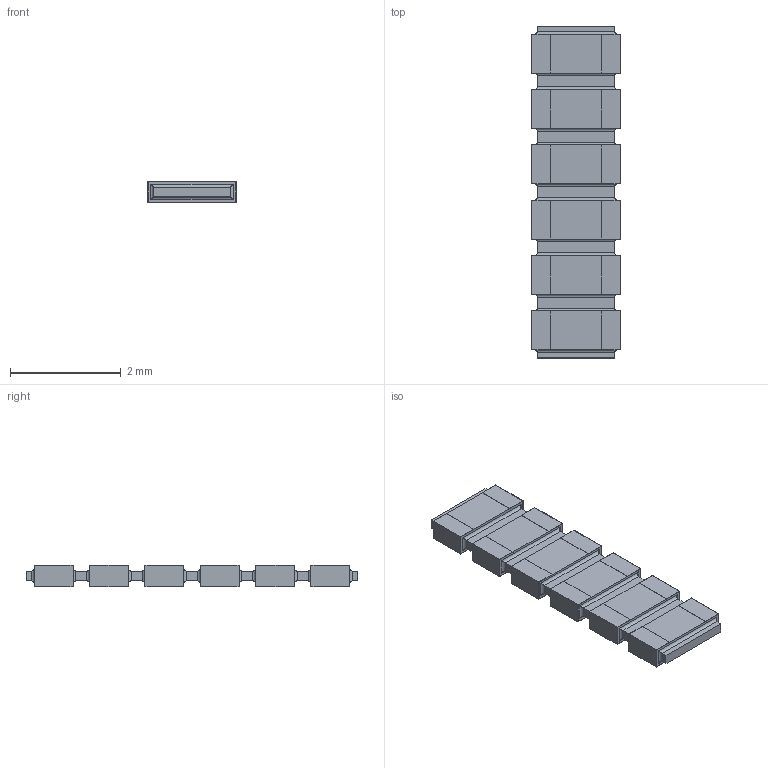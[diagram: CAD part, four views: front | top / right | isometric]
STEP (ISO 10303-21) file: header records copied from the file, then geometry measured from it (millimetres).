
FILE_DESCRIPTION(/* description */ (''),/* implementation_level */ '2;1');
FILE_NAME(/* name */ 'S:\DOCUMENT\AUTOCAD\3D_Modèles\10_3D-pour-VISHAY-COM\PRA\PRAHR100I6_B.stp',/* time_stamp */ '2018-02-02T10:47:19+01:00',/* author */ ('dparmentier'),/* organization */ ('unknown'),/* preprocessor_version */ 'ST-DEVELOPER v17',/* originating_system */ 'Autodesk Inventor 2018',/* authorisation */ '');
FILE_SCHEMA (('AUTOMOTIVE_DESIGN { 1 0 10303 214 3 1 1 }'));
Length unit declared in the file: millimetre
Products named in the file (1): PRAHR100I6_B
Bounding box: 1.6 x 6 x 0.38 mm (x, y, z)
Volume: 3 mm3; surface area: 43.7 mm2
Topology: 13 solids, 13 shells, 234 faces, 540 edges, 344 vertices
Faces by surface type: plane 186, cylinder 48
Entity records: 6509 total; most frequent: CARTESIAN_POINT 1119, ORIENTED_EDGE 1080, DIRECTION 1058, EDGE_CURVE 540, LINE 492, VECTOR 492, VERTEX_POINT 344, AXIS2_PLACEMENT_3D 283
